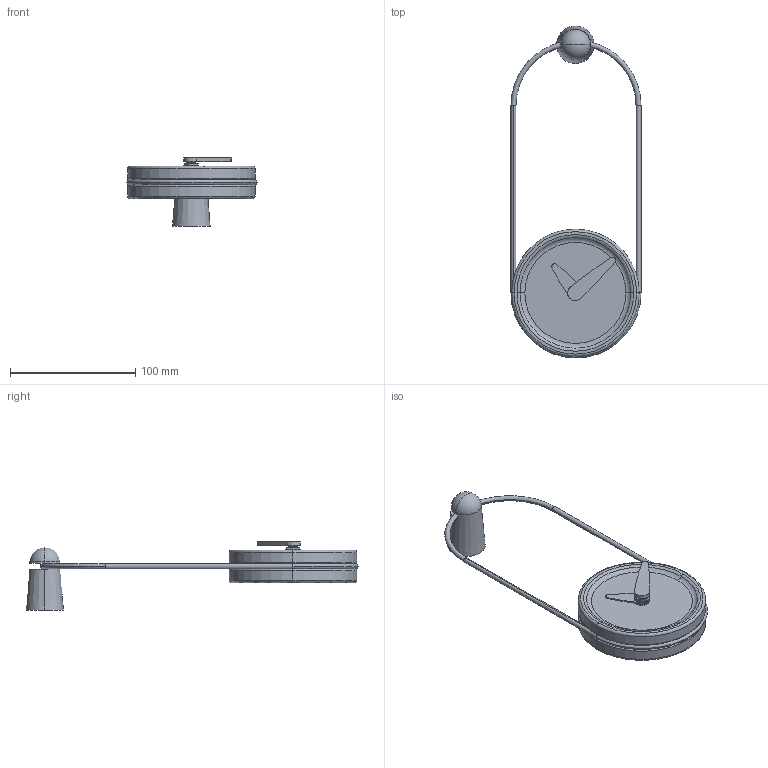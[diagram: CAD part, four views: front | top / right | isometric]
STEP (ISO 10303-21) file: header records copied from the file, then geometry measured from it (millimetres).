
FILE_DESCRIPTION (( 'STEP AP214' ), '1' );
FILE_NAME ('MICRO_ESLABON.STEP', '2020-03-02T08:03:59', ( '' ), ( '' ), 'SwSTEP 2.0', 'SolidWorks 2016', '' );
FILE_SCHEMA (( 'AUTOMOTIVE_DESIGN' ));
Length unit declared in the file: millimetre
Products named in the file (13): AGUJA_HORARIA_LATON_MICRO_ESLABON; MECANISMO_ÁTOMO_1; Pieza_caja_inferior; AGUJA_MINUTERA_OPC4; VARILLA_CURVADA; tuerca_7.3_1.5; Inserto horaria; MICRO_ESLABON; ANCLAJE_TORNEADO; Arandela_2; Pieza2; FRONTAL NOGAL
Assembly tree (12 placements, depth 3):
  MICRO_ESLABON
    VARILLA_CURVADA
    AGUJA_MINUTERA_OPC4
    MECANISMO_ÁTOMO_1
    Pieza2
    FRONTAL NOGAL
    ANCLAJE_TORNEADO
    Pieza_caja_inferior
    AGUJA_HORARIA_LATON_MICRO_ESLABON
      AGUJA_HORARIA_LATON_MICRO_ESLABON
      Arandela_2
      Inserto horaria
      tuerca_7.3_1.5
Bounding box: 104 x 265.54 x 54.5 mm (x, y, z)
Volume: 158882.6 mm3; surface area: 81089.4 mm2
Topology: 11 solids, 11 shells, 176 faces, 388 edges, 241 vertices
Faces by surface type: cylinder 80, plane 49, torus 30, cone 9, bspline 8
Entity records: 5723 total; most frequent: CARTESIAN_POINT 1143, DIRECTION 970, ORIENTED_EDGE 772, AXIS2_PLACEMENT_3D 418, EDGE_CURVE 386, VERTEX_POINT 241, CIRCLE 234, EDGE_LOOP 203
